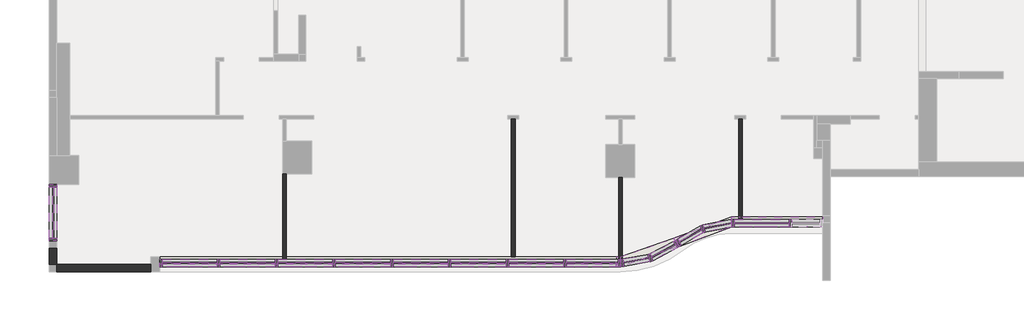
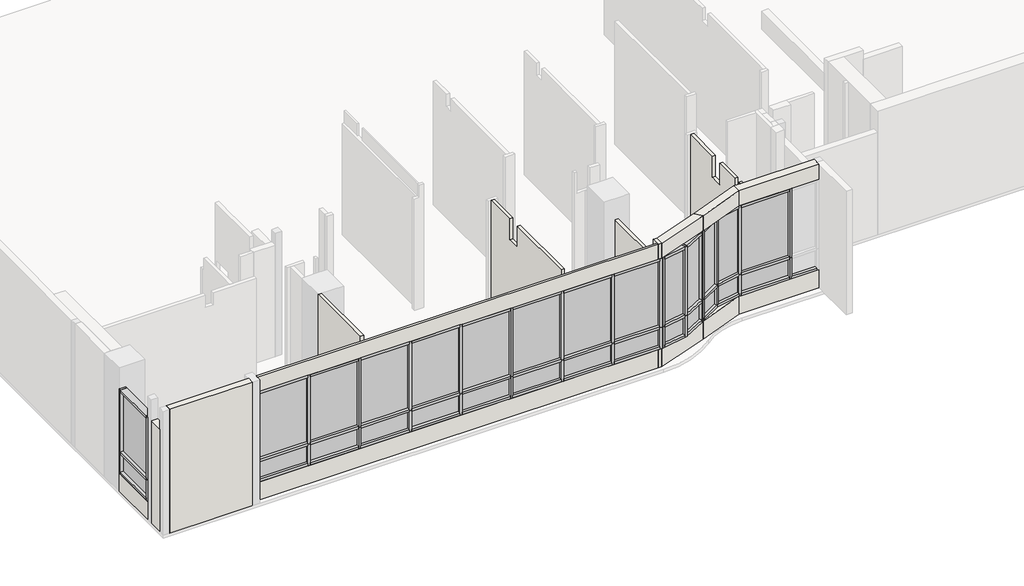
# One storey, part 1 of 5: 79 members, 28 plates, 17 walls.
"""IFC4 building model written with IfcOpenShell, lengths in millimetres."""

from ifc_helpers import new_model, si_unit, point, frame, frame_2d, origin, place, context, project, spatial, polyline, circle_curve, trimmed, segment, composite_curve, outline, extrude, faceted_brep, transform, mapped, element, save
from components import member_70_x_200mm_6b650310, member_70_x_200mm_08fd97f2, member_70_x_200mm_85eb935a, member_70_x_200mm_ae6c61ee, member_70_x_200mm_12a6a6c2, member_80_x_200mm_a37b7d74, member_80_x_200mm_c01ebbc2, member_80_x_200mm_af80708f, member_80_x_200mm_fd89d385, member_80_x_200mm_e8402a9b, member_80_x_200mm_63fe5b45, member_80_x_200mm_e494022e, member_80_x_200mm_537b8d84, member_80_x_200mm_7d515866, member_80_x_200mm_02b9a5ef, member_80_x_200mm_2dc16a67, member_80_x_200mm_d30ed080, member_80_x_200mm_3bc3efc9, member_80_x_200mm_7b820ed9, member_80_x_200mm_c7575e74, member_80_x_200mm_4b454364, member_80_x_200mm_f4b51c8c, member_80_x_200mm_66b8223e, plate_a692ac92, plate_0f107c01, plate_8b333cfc, plate_297323e3, plate_46e1f618, plate_72ebff30, plate_786e0475, plate_0077e03b, plate_0be1c703, plate_d42255f7, plate_9e1ff7f5, plate_61ec28ac, plate_0d231d8c, plate_bfa908b4

model = new_model("IFC4")

# Units and contexts
model_context = context("Model", 3, world=origin())
ifc_project = project(units=[si_unit("LENGTHUNIT", "METRE", prefix="MILLI")], contexts=[model_context])

# Site, building, storey
site = spatial("IfcSite", under=ifc_project)
building = spatial("IfcBuilding", under=site)
storey = spatial("IfcBuildingStorey", under=building, Name="20F(S)", Elevation=-100.0)

# Members
placement = place(None, origin())
member_70_x_200mm_shape = member_70_x_200mm_6b650310(model_context)
element("IfcMember", 1, ObjectType="矩形竖梃 : 70 x 200mm", at=placement, inside=storey, context=model_context, shape_type="MappedRepresentation", body=[
    mapped(member_70_x_200mm_shape, transform((4045.0000012, -2759.8975825, 500.0), x_axis=(1.0, 0.0, 0.0), y_axis=(0.0, -1.0, 0.0), z_axis=(0.0, 0.0, -1.0))),
])
element("IfcMember", 2, ObjectType="矩形竖梃 : 70 x 200mm", at=placement, inside=storey, context=model_context, shape_type="MappedRepresentation", body=[
    mapped(member_70_x_200mm_shape, transform((5635.0000012, -2759.8975825, 500.0), x_axis=(1.0, 0.0, 0.0), y_axis=(0.0, -1.0, 0.0), z_axis=(0.0, 0.0, -1.0))),
])
element("IfcMember", 3, ObjectType="矩形竖梃 : 70 x 200mm", at=placement, inside=storey, context=model_context, shape_type="MappedRepresentation", body=[
    mapped(member_70_x_200mm_shape, transform((7225.0000012, -2759.8975825, 500.0), x_axis=(1.0, 0.0, 0.0), y_axis=(0.0, -1.0, 0.0), z_axis=(0.0, 0.0, -1.0))),
])
element("IfcMember", 4, ObjectType="矩形竖梃 : 70 x 200mm", at=placement, inside=storey, context=model_context, shape_type="MappedRepresentation", body=[
    mapped(member_70_x_200mm_shape, transform((8815.0000012, -2759.8975825, 500.0), x_axis=(1.0, 0.0, 0.0), y_axis=(0.0, -1.0, 0.0), z_axis=(0.0, 0.0, -1.0))),
])
element("IfcMember", 5, ObjectType="矩形竖梃 : 70 x 200mm", at=placement, inside=storey, context=model_context, shape_type="MappedRepresentation", body=[
    mapped(member_70_x_200mm_shape, transform((10405.0000012, -2759.8975825, 500.0), x_axis=(1.0, 0.0, 0.0), y_axis=(0.0, -1.0, 0.0), z_axis=(0.0, 0.0, -1.0))),
])
element("IfcMember", 6, ObjectType="矩形竖梃 : 70 x 200mm", at=placement, inside=storey, context=model_context, shape_type="MappedRepresentation", body=[
    mapped(member_70_x_200mm_shape, transform((11995.0000012, -2759.8975825, 500.0), x_axis=(1.0, 0.0, 0.0), y_axis=(0.0, -1.0, 0.0), z_axis=(0.0, 0.0, -1.0))),
])
element("IfcMember", 7, ObjectType="矩形竖梃 : 70 x 200mm", at=placement, inside=storey, context=model_context, shape_type="MappedRepresentation", body=[
    mapped(member_70_x_200mm_shape, transform((13585.0000012, -2759.8975825, 500.0), x_axis=(1.0, 0.0, 0.0), y_axis=(0.0, -1.0, 0.0), z_axis=(0.0, 0.0, -1.0))),
])
element("IfcMember", 8, ObjectType="矩形竖梃 : 70 x 200mm", at=placement, inside=storey, context=model_context, shape_type="MappedRepresentation", body=[
    mapped(member_70_x_200mm_shape, transform((16658.1799012, -2231.2167325, 500.0), x_axis=(0.7956273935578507, 0.6057863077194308, 0.0), y_axis=(0.6057863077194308, -0.7956273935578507, 0.0), z_axis=(0.0, 0.0, -1.0))),
])
element("IfcMember", 9, ObjectType="矩形竖梃 : 70 x 200mm", at=placement, inside=storey, context=model_context, shape_type="MappedRepresentation", body=[
    mapped(member_70_x_200mm_shape, transform((19792.0604383, -1661.00763, 500.0), x_axis=(1.0, 0.0, 0.0), y_axis=(0.0, -1.0, 0.0), z_axis=(0.0, 0.0, -1.0))),
])
element("IfcMember", 10, ObjectType="矩形竖梃 : 70 x 200mm", at=placement, inside=storey, context=model_context, shape_type="MappedRepresentation", body=[
    mapped(member_70_x_200mm_shape, transform((15932.457914, -2619.3002944, 500.0), x_axis=(0.9455963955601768, 0.32534206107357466, 0.0), y_axis=(0.32534206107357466, -0.9455963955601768, 0.0), z_axis=(0.0, 0.0, -1.0))),
])
element("IfcMember", 11, ObjectType="矩形竖梃 : 70 x 200mm", at=placement, inside=storey, context=model_context, shape_type="MappedRepresentation", body=[
    mapped(member_70_x_200mm_shape, transform((17375.292584, -1816.5245301, 500.0), x_axis=(0.9368192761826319, 0.3498137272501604, 0.0), y_axis=(0.3498137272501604, -0.9368192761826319, 0.0), z_axis=(0.0, 0.0, -1.0))),
])
member_70_x_200mm_2_shape = member_70_x_200mm_08fd97f2(model_context)
element("IfcMember", 12, ObjectType="矩形竖梃 : 70 x 200mm", at=placement, inside=storey, context=model_context, shape_type="MappedRepresentation", body=[
    mapped(member_70_x_200mm_2_shape, transform((4045.0000012, -2759.8975825, 1210.0), x_axis=(1.0, 0.0, 0.0), y_axis=(0.0, -1.0, 0.0), z_axis=(0.0, 0.0, -1.0))),
])
element("IfcMember", 13, ObjectType="矩形竖梃 : 70 x 200mm", at=placement, inside=storey, context=model_context, shape_type="MappedRepresentation", body=[
    mapped(member_70_x_200mm_2_shape, transform((5635.0000012, -2759.8975825, 1210.0), x_axis=(1.0, 0.0, 0.0), y_axis=(0.0, -1.0, 0.0), z_axis=(0.0, 0.0, -1.0))),
])
element("IfcMember", 14, ObjectType="矩形竖梃 : 70 x 200mm", at=placement, inside=storey, context=model_context, shape_type="MappedRepresentation", body=[
    mapped(member_70_x_200mm_2_shape, transform((7225.0000012, -2759.8975825, 1210.0), x_axis=(1.0, 0.0, 0.0), y_axis=(0.0, -1.0, 0.0), z_axis=(0.0, 0.0, -1.0))),
])
element("IfcMember", 15, ObjectType="矩形竖梃 : 70 x 200mm", at=placement, inside=storey, context=model_context, shape_type="MappedRepresentation", body=[
    mapped(member_70_x_200mm_2_shape, transform((8815.0000012, -2759.8975825, 1210.0), x_axis=(1.0, 0.0, 0.0), y_axis=(0.0, -1.0, 0.0), z_axis=(0.0, 0.0, -1.0))),
])
element("IfcMember", 16, ObjectType="矩形竖梃 : 70 x 200mm", at=placement, inside=storey, context=model_context, shape_type="MappedRepresentation", body=[
    mapped(member_70_x_200mm_2_shape, transform((10405.0000012, -2759.8975825, 1210.0), x_axis=(1.0, 0.0, 0.0), y_axis=(0.0, -1.0, 0.0), z_axis=(0.0, 0.0, -1.0))),
])
element("IfcMember", 17, ObjectType="矩形竖梃 : 70 x 200mm", at=placement, inside=storey, context=model_context, shape_type="MappedRepresentation", body=[
    mapped(member_70_x_200mm_2_shape, transform((11995.0000012, -2759.8975825, 1210.0), x_axis=(1.0, 0.0, 0.0), y_axis=(0.0, -1.0, 0.0), z_axis=(0.0, 0.0, -1.0))),
])
element("IfcMember", 18, ObjectType="矩形竖梃 : 70 x 200mm", at=placement, inside=storey, context=model_context, shape_type="MappedRepresentation", body=[
    mapped(member_70_x_200mm_2_shape, transform((13585.0000012, -2759.8975825, 1210.0), x_axis=(1.0, 0.0, 0.0), y_axis=(0.0, -1.0, 0.0), z_axis=(0.0, 0.0, -1.0))),
])
element("IfcMember", 19, ObjectType="矩形竖梃 : 70 x 200mm", at=placement, inside=storey, context=model_context, shape_type="MappedRepresentation", body=[
    mapped(member_70_x_200mm_2_shape, transform((16658.1799012, -2231.2167325, 1210.0), x_axis=(0.7956273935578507, 0.6057863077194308, 0.0), y_axis=(0.6057863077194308, -0.7956273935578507, 0.0), z_axis=(0.0, 0.0, -1.0))),
])
element("IfcMember", 20, ObjectType="矩形竖梃 : 70 x 200mm", at=placement, inside=storey, context=model_context, shape_type="MappedRepresentation", body=[
    mapped(member_70_x_200mm_2_shape, transform((19792.0604383, -1661.00763, 1210.0), x_axis=(1.0, 0.0, 0.0), y_axis=(0.0, -1.0, 0.0), z_axis=(0.0, 0.0, -1.0))),
])
element("IfcMember", 21, ObjectType="矩形竖梃 : 70 x 200mm", at=placement, inside=storey, context=model_context, shape_type="MappedRepresentation", body=[
    mapped(member_70_x_200mm_2_shape, transform((15932.457914, -2619.3002944, 1210.0), x_axis=(0.9455963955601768, 0.32534206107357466, 0.0), y_axis=(0.32534206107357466, -0.9455963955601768, 0.0), z_axis=(0.0, 0.0, -1.0))),
])
element("IfcMember", 22, ObjectType="矩形竖梃 : 70 x 200mm", at=placement, inside=storey, context=model_context, shape_type="MappedRepresentation", body=[
    mapped(member_70_x_200mm_2_shape, transform((17375.292584, -1816.5245301, 1210.0), x_axis=(0.9368192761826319, 0.3498137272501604, 0.0), y_axis=(0.3498137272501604, -0.9368192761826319, 0.0), z_axis=(0.0, 0.0, -1.0))),
])
member_70_x_200mm_3_shape = member_70_x_200mm_85eb935a(model_context)
element("IfcMember", 23, ObjectType="矩形竖梃 : 70 x 200mm", at=placement, inside=storey, context=model_context, shape_type="MappedRepresentation", body=[
    mapped(member_70_x_200mm_3_shape, transform((15121.5857561, -2759.8975825, 500.0), x_axis=(1.0, 0.0, 0.0), y_axis=(0.0, -1.0, 0.0), z_axis=(0.0, 0.0, -1.0))),
])
element("IfcMember", 24, ObjectType="矩形竖梃 : 70 x 200mm", at=placement, inside=storey, context=model_context, shape_type="MappedRepresentation", body=[
    mapped(member_70_x_200mm_3_shape, transform((-509.9999991, -2150.00763, 500.0), x_axis=(0.0, -1.0, 0.0), y_axis=(-1.0, 0.0, 0.0), z_axis=(0.0, 0.0, -1.0))),
])
member_70_x_200mm_4_shape = member_70_x_200mm_ae6c61ee(model_context)
element("IfcMember", 25, ObjectType="矩形竖梃 : 70 x 200mm", at=placement, inside=storey, context=model_context, shape_type="MappedRepresentation", body=[
    mapped(member_70_x_200mm_4_shape, transform((15121.5857561, -2759.8975825, 1210.0), x_axis=(1.0, 0.0, 0.0), y_axis=(0.0, -1.0, 0.0), z_axis=(0.0, 0.0, -1.0))),
])
element("IfcMember", 26, ObjectType="矩形竖梃 : 70 x 200mm", at=placement, inside=storey, context=model_context, shape_type="MappedRepresentation", body=[
    mapped(member_70_x_200mm_4_shape, transform((2420.0000009, -2759.8975825, 3500.0), x_axis=(-1.0, 0.0, 0.0), y_axis=(0.0, -1.0, 0.0), z_axis=(0.0, 0.0, 1.0))),
])
element("IfcMember", 27, ObjectType="矩形竖梃 : 70 x 200mm", at=placement, inside=storey, context=model_context, shape_type="MappedRepresentation", body=[
    mapped(member_70_x_200mm_4_shape, transform((15121.5857561, -2759.8975825, 3500.0), x_axis=(-0.9852985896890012, -0.17084112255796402, 0.0), y_axis=(0.17084112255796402, -0.9852985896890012, 0.0), z_axis=(0.0, 0.0, 1.0))),
])
element("IfcMember", 28, ObjectType="矩形竖梃 : 70 x 200mm", at=placement, inside=storey, context=model_context, shape_type="MappedRepresentation", body=[
    mapped(member_70_x_200mm_4_shape, transform((16675.3718463, -2218.0127637, 3500.0), x_axis=(-0.8674232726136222, -0.4975709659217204, 0.0), y_axis=(0.4975709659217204, -0.8674232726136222, 0.0), z_axis=(0.0, 0.0, 1.0))),
])
element("IfcMember", 29, ObjectType="矩形竖梃 : 70 x 200mm", at=placement, inside=storey, context=model_context, shape_type="MappedRepresentation", body=[
    mapped(member_70_x_200mm_4_shape, transform((18167.060438, -1661.00763, 3500.0), x_axis=(-1.0, 0.0, 0.0), y_axis=(0.0, -1.0, 0.0), z_axis=(0.0, 0.0, 1.0))),
])
element("IfcMember", 30, ObjectType="矩形竖梃 : 70 x 200mm", at=placement, inside=storey, context=model_context, shape_type="MappedRepresentation", body=[
    mapped(member_70_x_200mm_3_shape, transform((2420.0000009, -2759.8975825, 1210.0), x_axis=(-1.0, 0.0, 0.0), y_axis=(0.0, -1.0, 0.0), z_axis=(0.0, 0.0, 1.0))),
])
element("IfcMember", 31, ObjectType="矩形竖梃 : 70 x 200mm", at=placement, inside=storey, context=model_context, shape_type="MappedRepresentation", body=[
    mapped(member_70_x_200mm_3_shape, transform((15121.5857561, -2759.8975825, 1210.0), x_axis=(-0.9852985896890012, -0.170841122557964, 0.0), y_axis=(0.170841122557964, -0.9852985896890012, 0.0), z_axis=(0.0, 0.0, 1.0))),
])
element("IfcMember", 32, ObjectType="矩形竖梃 : 70 x 200mm", at=placement, inside=storey, context=model_context, shape_type="MappedRepresentation", body=[
    mapped(member_70_x_200mm_3_shape, transform((16675.3718463, -2218.0127637, 1210.0), x_axis=(-0.8674232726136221, -0.4975709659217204, 0.0), y_axis=(0.4975709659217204, -0.8674232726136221, 0.0), z_axis=(0.0, 0.0, 1.0))),
])
element("IfcMember", 33, ObjectType="矩形竖梃 : 70 x 200mm", at=placement, inside=storey, context=model_context, shape_type="MappedRepresentation", body=[
    mapped(member_70_x_200mm_3_shape, transform((18167.060438, -1661.00763, 1210.0), x_axis=(-1.0, 0.0, 0.0), y_axis=(0.0, -1.0, 0.0), z_axis=(0.0, 0.0, 1.0))),
])
element("IfcMember", 34, ObjectType="矩形竖梃 : 70 x 200mm", at=placement, inside=storey, context=model_context, shape_type="MappedRepresentation", body=[
    mapped(member_70_x_200mm_3_shape, transform((-509.9999991, -599.9999983, 1210.0), x_axis=(0.0, 1.0, 0.0), y_axis=(-1.0, 0.0, 0.0), z_axis=(0.0, 0.0, 1.0))),
])
member_70_x_200mm_5_shape = member_70_x_200mm_12a6a6c2(model_context)
element("IfcMember", 35, ObjectType="矩形竖梃 : 70 x 200mm", at=placement, inside=storey, context=model_context, shape_type="MappedRepresentation", body=[
    mapped(member_70_x_200mm_5_shape, transform((-509.9999991, -599.9999983, 3300.0), x_axis=(0.0, 1.0, 0.0), y_axis=(-1.0, 0.0, 0.0), z_axis=(0.0, 0.0, 1.0))),
])
element("IfcMember", 36, ObjectType="矩形竖梃 : 70 x 200mm", at=placement, inside=storey, context=model_context, shape_type="MappedRepresentation", body=[
    mapped(member_70_x_200mm_5_shape, transform((-509.9999991, -2150.00763, 1210.0), x_axis=(0.0, -1.0, 0.0), y_axis=(-1.0, 0.0, 0.0), z_axis=(0.0, 0.0, -1.0))),
])
member_80_x_200mm_shape = member_80_x_200mm_a37b7d74(model_context)
element("IfcMember", 37, ObjectType="矩形竖梃 : 80 x 200mm", at=placement, inside=storey, context=model_context, shape_type="MappedRepresentation", body=[
    mapped(member_80_x_200mm_shape, transform((15051.5857561, -2759.8975825, 3500.0), x_axis=(0.0, 0.0, 1.0), y_axis=(0.0, -1.0, 0.0), z_axis=(1.0, 0.0, 0.0))),
])
member_80_x_200mm_2_shape = member_80_x_200mm_c01ebbc2(model_context)
element("IfcMember", 38, ObjectType="矩形竖梃 : 80 x 200mm", at=placement, inside=storey, context=model_context, shape_type="MappedRepresentation", body=[
    mapped(member_80_x_200mm_2_shape, transform((4010.0000012, -2759.8975825, 3500.0), x_axis=(0.0, 0.0, 1.0), y_axis=(0.0, -1.0, 0.0), z_axis=(1.0, 0.0, 0.0))),
])
element("IfcMember", 39, ObjectType="矩形竖梃 : 80 x 200mm", at=placement, inside=storey, context=model_context, shape_type="MappedRepresentation", body=[
    mapped(member_80_x_200mm_2_shape, transform((5600.0000012, -2759.8975825, 3500.0), x_axis=(0.0, 0.0, 1.0), y_axis=(0.0, -1.0, 0.0), z_axis=(1.0, 0.0, 0.0))),
])
element("IfcMember", 40, ObjectType="矩形竖梃 : 80 x 200mm", at=placement, inside=storey, context=model_context, shape_type="MappedRepresentation", body=[
    mapped(member_80_x_200mm_2_shape, transform((7190.0000012, -2759.8975825, 3500.0), x_axis=(0.0, 0.0, 1.0), y_axis=(0.0, -1.0, 0.0), z_axis=(1.0, 0.0, 0.0))),
])
element("IfcMember", 41, ObjectType="矩形竖梃 : 80 x 200mm", at=placement, inside=storey, context=model_context, shape_type="MappedRepresentation", body=[
    mapped(member_80_x_200mm_2_shape, transform((8780.0000012, -2759.8975825, 3500.0), x_axis=(0.0, 0.0, 1.0), y_axis=(0.0, -1.0, 0.0), z_axis=(1.0, 0.0, 0.0))),
])
element("IfcMember", 42, ObjectType="矩形竖梃 : 80 x 200mm", at=placement, inside=storey, context=model_context, shape_type="MappedRepresentation", body=[
    mapped(member_80_x_200mm_2_shape, transform((10370.0000012, -2759.8975825, 3500.0), x_axis=(0.0, 0.0, 1.0), y_axis=(0.0, -1.0, 0.0), z_axis=(1.0, 0.0, 0.0))),
])
element("IfcMember", 43, ObjectType="矩形竖梃 : 80 x 200mm", at=placement, inside=storey, context=model_context, shape_type="MappedRepresentation", body=[
    mapped(member_80_x_200mm_2_shape, transform((11960.0000012, -2759.8975825, 3500.0), x_axis=(0.0, 0.0, 1.0), y_axis=(0.0, -1.0, 0.0), z_axis=(1.0, 0.0, 0.0))),
])
element("IfcMember", 44, ObjectType="矩形竖梃 : 80 x 200mm", at=placement, inside=storey, context=model_context, shape_type="MappedRepresentation", body=[
    mapped(member_80_x_200mm_2_shape, transform((13550.0000012, -2759.8975825, 3500.0), x_axis=(0.0, 0.0, 1.0), y_axis=(0.0, -1.0, 0.0), z_axis=(1.0, 0.0, 0.0))),
])
element("IfcMember", 45, ObjectType="矩形竖梃 : 80 x 200mm", at=placement, inside=storey, context=model_context, shape_type="MappedRepresentation", body=[
    mapped(member_80_x_200mm_2_shape, transform((19757.0604383, -1661.00763, 3500.0), x_axis=(0.0, 0.0, 1.0), y_axis=(0.0, -1.0, 0.0), z_axis=(1.0, 0.0, 0.0))),
])
element("IfcMember", 46, ObjectType="矩形竖梃 : 80 x 200mm", at=placement, inside=storey, context=model_context, shape_type="MappedRepresentation", body=[
    mapped(member_80_x_200mm_2_shape, transform((2490.0000009, -2759.8975825, 500.0), x_axis=(0.0, 0.0, -1.0), y_axis=(0.0, -1.0, 0.0), z_axis=(-1.0, 0.0, 0.0))),
])
element("IfcMember", 47, ObjectType="矩形竖梃 : 80 x 200mm", at=placement, inside=storey, context=model_context, shape_type="MappedRepresentation", body=[
    mapped(member_80_x_200mm_2_shape, transform((4080.0000012, -2759.8975825, 500.0), x_axis=(0.0, 0.0, -1.0), y_axis=(0.0, -1.0, 0.0), z_axis=(-1.0, 0.0, 0.0))),
])
element("IfcMember", 48, ObjectType="矩形竖梃 : 80 x 200mm", at=placement, inside=storey, context=model_context, shape_type="MappedRepresentation", body=[
    mapped(member_80_x_200mm_2_shape, transform((5670.0000012, -2759.8975825, 500.0), x_axis=(0.0, 0.0, -1.0), y_axis=(0.0, -1.0, 0.0), z_axis=(-1.0, 0.0, 0.0))),
])
element("IfcMember", 49, ObjectType="矩形竖梃 : 80 x 200mm", at=placement, inside=storey, context=model_context, shape_type="MappedRepresentation", body=[
    mapped(member_80_x_200mm_2_shape, transform((7260.0000012, -2759.8975825, 500.0), x_axis=(0.0, 0.0, -1.0), y_axis=(0.0, -1.0, 0.0), z_axis=(-1.0, 0.0, 0.0))),
])
element("IfcMember", 50, ObjectType="矩形竖梃 : 80 x 200mm", at=placement, inside=storey, context=model_context, shape_type="MappedRepresentation", body=[
    mapped(member_80_x_200mm_2_shape, transform((8850.0000012, -2759.8975825, 500.0), x_axis=(0.0, 0.0, -1.0), y_axis=(0.0, -1.0, 0.0), z_axis=(-1.0, 0.0, 0.0))),
])
element("IfcMember", 51, ObjectType="矩形竖梃 : 80 x 200mm", at=placement, inside=storey, context=model_context, shape_type="MappedRepresentation", body=[
    mapped(member_80_x_200mm_2_shape, transform((10440.0000012, -2759.8975825, 500.0), x_axis=(0.0, 0.0, -1.0), y_axis=(0.0, -1.0, 0.0), z_axis=(-1.0, 0.0, 0.0))),
])
element("IfcMember", 52, ObjectType="矩形竖梃 : 80 x 200mm", at=placement, inside=storey, context=model_context, shape_type="MappedRepresentation", body=[
    mapped(member_80_x_200mm_2_shape, transform((12030.0000012, -2759.8975825, 500.0), x_axis=(0.0, 0.0, -1.0), y_axis=(0.0, -1.0, 0.0), z_axis=(-1.0, 0.0, 0.0))),
])
element("IfcMember", 53, ObjectType="矩形竖梃 : 80 x 200mm", at=placement, inside=storey, context=model_context, shape_type="MappedRepresentation", body=[
    mapped(member_80_x_200mm_2_shape, transform((18237.060438, -1661.00763, 500.0), x_axis=(0.0, 0.0, -1.0), y_axis=(0.0, -1.0, 0.0), z_axis=(-1.0, 0.0, 0.0))),
])
element("IfcMember", 54, ObjectType="矩形竖梃 : 80 x 200mm", at=placement, inside=storey, context=model_context, shape_type="MappedRepresentation", body=[
    mapped(member_80_x_200mm_shape, transform((13620.0000012, -2759.8975825, 500.0), x_axis=(0.0, 0.0, -1.0), y_axis=(0.0, -1.0, 0.0), z_axis=(-1.0, 0.0, 0.0))),
])
member_80_x_200mm_3_shape = member_80_x_200mm_af80708f(model_context)
element("IfcMember", 55, ObjectType="矩形竖梃 : 80 x 200mm", at=placement, inside=storey, context=model_context, shape_type="MappedRepresentation", body=[
    mapped(member_80_x_200mm_3_shape, transform((4010.0000012, -2759.8975825, 1210.0), x_axis=(0.0, 0.0, 1.0), y_axis=(0.0, -1.0, 0.0), z_axis=(1.0, 0.0, 0.0))),
])
element("IfcMember", 56, ObjectType="矩形竖梃 : 80 x 200mm", at=placement, inside=storey, context=model_context, shape_type="MappedRepresentation", body=[
    mapped(member_80_x_200mm_3_shape, transform((5600.0000012, -2759.8975825, 1210.0), x_axis=(0.0, 0.0, 1.0), y_axis=(0.0, -1.0, 0.0), z_axis=(1.0, 0.0, 0.0))),
])
element("IfcMember", 57, ObjectType="矩形竖梃 : 80 x 200mm", at=placement, inside=storey, context=model_context, shape_type="MappedRepresentation", body=[
    mapped(member_80_x_200mm_3_shape, transform((7190.0000012, -2759.8975825, 1210.0), x_axis=(0.0, 0.0, 1.0), y_axis=(0.0, -1.0, 0.0), z_axis=(1.0, 0.0, 0.0))),
])
element("IfcMember", 58, ObjectType="矩形竖梃 : 80 x 200mm", at=placement, inside=storey, context=model_context, shape_type="MappedRepresentation", body=[
    mapped(member_80_x_200mm_3_shape, transform((8780.0000012, -2759.8975825, 1210.0), x_axis=(0.0, 0.0, 1.0), y_axis=(0.0, -1.0, 0.0), z_axis=(1.0, 0.0, 0.0))),
])
element("IfcMember", 59, ObjectType="矩形竖梃 : 80 x 200mm", at=placement, inside=storey, context=model_context, shape_type="MappedRepresentation", body=[
    mapped(member_80_x_200mm_3_shape, transform((10370.0000012, -2759.8975825, 1210.0), x_axis=(0.0, 0.0, 1.0), y_axis=(0.0, -1.0, 0.0), z_axis=(1.0, 0.0, 0.0))),
])
element("IfcMember", 60, ObjectType="矩形竖梃 : 80 x 200mm", at=placement, inside=storey, context=model_context, shape_type="MappedRepresentation", body=[
    mapped(member_80_x_200mm_3_shape, transform((11960.0000012, -2759.8975825, 1210.0), x_axis=(0.0, 0.0, 1.0), y_axis=(0.0, -1.0, 0.0), z_axis=(1.0, 0.0, 0.0))),
])
element("IfcMember", 61, ObjectType="矩形竖梃 : 80 x 200mm", at=placement, inside=storey, context=model_context, shape_type="MappedRepresentation", body=[
    mapped(member_80_x_200mm_3_shape, transform((13550.0000012, -2759.8975825, 1210.0), x_axis=(0.0, 0.0, 1.0), y_axis=(0.0, -1.0, 0.0), z_axis=(1.0, 0.0, 0.0))),
])
element("IfcMember", 62, ObjectType="矩形竖梃 : 80 x 200mm", at=placement, inside=storey, context=model_context, shape_type="MappedRepresentation", body=[
    mapped(member_80_x_200mm_3_shape, transform((19757.0604383, -1661.00763, 1210.0), x_axis=(0.0, 0.0, 1.0), y_axis=(0.0, -1.0, 0.0), z_axis=(1.0, 0.0, 0.0))),
])
member_80_x_200mm_4_shape = member_80_x_200mm_fd89d385(model_context)
element("IfcMember", 63, ObjectType="矩形竖梃 : 80 x 200mm", at=placement, inside=storey, context=model_context, shape_type="MappedRepresentation", body=[
    mapped(member_80_x_200mm_4_shape, transform((15051.5857561, -2759.8975825, 1210.0), x_axis=(0.0, 0.0, 1.0), y_axis=(0.0, -1.0, 0.0), z_axis=(1.0, 0.0, 0.0))),
])
member_80_x_200mm_5_shape = member_80_x_200mm_e8402a9b(model_context)
element("IfcMember", 64, ObjectType="矩形竖梃 : 80 x 200mm", at=placement, inside=storey, context=model_context, shape_type="MappedRepresentation", body=[
    mapped(member_80_x_200mm_5_shape, transform((19827.0604383, -1661.00763, 500.0), x_axis=(0.0, 0.0, -1.0), y_axis=(0.0, -1.0, 0.0), z_axis=(-1.0, 0.0, 0.0))),
])
member_80_x_200mm_6_shape = member_80_x_200mm_63fe5b45(model_context)
element("IfcMember", 65, ObjectType="矩形竖梃 : 80 x 200mm", at=placement, inside=storey, context=model_context, shape_type="MappedRepresentation", body=[
    mapped(member_80_x_200mm_6_shape, transform((16627.3157884, -2247.7214754, 3500.0), x_axis=(0.0, 0.0, 1.0), y_axis=(0.4715640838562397, -0.8818317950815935, 0.0), z_axis=(0.8818317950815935, 0.4715640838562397, 0.0))),
])
member_80_x_200mm_7_shape = member_80_x_200mm_e494022e(model_context)
element("IfcMember", 66, ObjectType="矩形竖梃 : 80 x 200mm", at=placement, inside=storey, context=model_context, shape_type="MappedRepresentation", body=[
    mapped(member_80_x_200mm_7_shape, transform((15190.5566574, -2747.938704, 500.0), x_axis=(0.0, 0.0, -1.0), y_axis=(0.17084112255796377, -0.9852985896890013, 0.0), z_axis=(-0.9852985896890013, -0.17084112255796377, 0.0))),
])
member_80_x_200mm_8_shape = member_80_x_200mm_537b8d84(model_context)
element("IfcMember", 67, ObjectType="矩形竖梃 : 80 x 200mm", at=placement, inside=storey, context=model_context, shape_type="MappedRepresentation", body=[
    mapped(member_80_x_200mm_8_shape, transform((15897.9724634, -2625.2797337, 1210.0), x_axis=(0.0, 0.0, 1.0), y_axis=(0.17084112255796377, -0.9852985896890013, 0.0), z_axis=(0.9852985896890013, 0.17084112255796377, 0.0))),
])
member_80_x_200mm_9_shape = member_80_x_200mm_7d515866(model_context)
element("IfcMember", 68, ObjectType="矩形竖梃 : 80 x 200mm", at=placement, inside=storey, context=model_context, shape_type="MappedRepresentation", body=[
    mapped(member_80_x_200mm_9_shape, transform((15897.9724634, -2625.2797337, 3500.0), x_axis=(0.0, 0.0, 1.0), y_axis=(0.17084112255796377, -0.9852985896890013, 0.0), z_axis=(0.9852985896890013, 0.17084112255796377, 0.0))),
])
element("IfcMember", 69, ObjectType="矩形竖梃 : 80 x 200mm", at=placement, inside=storey, context=model_context, shape_type="MappedRepresentation", body=[
    mapped(member_80_x_200mm_6_shape, transform((15963.3220268, -2602.7955515, 500.0), x_axis=(0.0, 0.0, -1.0), y_axis=(0.4715640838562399, -0.8818317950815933, 0.0), z_axis=(-0.8818317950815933, -0.4715640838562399, 0.0))),
])
member_80_x_200mm_10_shape = member_80_x_200mm_02b9a5ef(model_context)
element("IfcMember", 70, ObjectType="矩形竖梃 : 80 x 200mm", at=placement, inside=storey, context=model_context, shape_type="MappedRepresentation", body=[
    mapped(member_80_x_200mm_10_shape, transform((16627.3157884, -2247.7214754, 1210.0), x_axis=(0.0, 0.0, 1.0), y_axis=(0.47156408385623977, -0.8818317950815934, 0.0), z_axis=(0.8818317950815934, 0.47156408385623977, 0.0))),
])
member_80_x_200mm_11_shape = member_80_x_200mm_2dc16a67(model_context)
element("IfcMember", 71, ObjectType="矩形竖梃 : 80 x 200mm", at=placement, inside=storey, context=model_context, shape_type="MappedRepresentation", body=[
    mapped(member_80_x_200mm_11_shape, transform((16736.0914753, -2183.1827961, 500.0), x_axis=(0.0, 0.0, -1.0), y_axis=(0.4975709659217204, -0.8674232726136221, 0.0), z_axis=(-0.8674232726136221, -0.4975709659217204, 0.0))),
])
member_80_x_200mm_12_shape = member_80_x_200mm_d30ed080(model_context)
element("IfcMember", 72, ObjectType="矩形竖梃 : 80 x 200mm", at=placement, inside=storey, context=model_context, shape_type="MappedRepresentation", body=[
    mapped(member_80_x_200mm_12_shape, transform((17344.9327694, -1833.9395139, 1210.0), x_axis=(0.0, 0.0, 1.0), y_axis=(0.4975709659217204, -0.8674232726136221, 0.0), z_axis=(0.8674232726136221, 0.4975709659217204, 0.0))),
])
member_80_x_200mm_13_shape = member_80_x_200mm_3bc3efc9(model_context)
element("IfcMember", 73, ObjectType="矩形竖梃 : 80 x 200mm", at=placement, inside=storey, context=model_context, shape_type="MappedRepresentation", body=[
    mapped(member_80_x_200mm_13_shape, transform((17344.9327694, -1833.9395139, 3500.0), x_axis=(0.0, 0.0, 1.0), y_axis=(0.4975709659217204, -0.8674232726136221, 0.0), z_axis=(0.8674232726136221, 0.4975709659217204, 0.0))),
])
member_80_x_200mm_14_shape = member_80_x_200mm_7b820ed9(model_context)
element("IfcMember", 74, ObjectType="矩形竖梃 : 80 x 200mm", at=placement, inside=storey, context=model_context, shape_type="MappedRepresentation", body=[
    mapped(member_80_x_200mm_14_shape, transform((18167.060438, -1661.00763, 3500.0), x_axis=(0.0, 0.0, 1.0), y_axis=(0.1927346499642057, -0.981250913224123, 0.0), z_axis=(0.9812509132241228, 0.19273464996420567, 0.0))),
])
member_80_x_200mm_15_shape = member_80_x_200mm_c7575e74(model_context)
element("IfcMember", 75, ObjectType="矩形竖梃 : 80 x 200mm", at=placement, inside=storey, context=model_context, shape_type="MappedRepresentation", body=[
    mapped(member_80_x_200mm_15_shape, transform((17409.6363659, -1809.7788173, 500.0), x_axis=(0.0, 0.0, -1.0), y_axis=(0.1927346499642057, -0.981250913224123, 0.0), z_axis=(-0.9812509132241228, -0.19273464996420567, 0.0))),
])
member_80_x_200mm_16_shape = member_80_x_200mm_4b454364(model_context)
element("IfcMember", 76, ObjectType="矩形竖梃 : 80 x 200mm", at=placement, inside=storey, context=model_context, shape_type="MappedRepresentation", body=[
    mapped(member_80_x_200mm_16_shape, transform((18167.060438, -1661.00763, 1210.0), x_axis=(0.0, 0.0, 1.0), y_axis=(0.1927346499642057, -0.981250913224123, 0.0), z_axis=(0.9812509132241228, 0.19273464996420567, 0.0))),
])
member_80_x_200mm_17_shape = member_80_x_200mm_f4b51c8c(model_context)
element("IfcMember", 77, ObjectType="矩形竖梃 : 80 x 200mm", at=placement, inside=storey, context=model_context, shape_type="MappedRepresentation", body=[
    mapped(member_80_x_200mm_17_shape, transform((-509.9999991, -2080.00763, 3300.0), x_axis=(0.0, 0.0, 1.0), y_axis=(-1.0, 0.0, 0.0), z_axis=(0.0, -1.0, 0.0))),
])
element("IfcMember", 78, ObjectType="矩形竖梃 : 80 x 200mm", at=placement, inside=storey, context=model_context, shape_type="MappedRepresentation", body=[
    mapped(member_80_x_200mm_17_shape, transform((-509.9999991, -669.9999983, 500.0), x_axis=(0.0, 0.0, -1.0), y_axis=(-1.0, 0.0, 0.0), z_axis=(0.0, 1.0, 0.0))),
])
member_80_x_200mm_18_shape = member_80_x_200mm_66b8223e(model_context)
element("IfcMember", 79, ObjectType="矩形竖梃 : 80 x 200mm", at=placement, inside=storey, context=model_context, shape_type="MappedRepresentation", body=[
    mapped(member_80_x_200mm_18_shape, transform((-509.9999991, -2080.00763, 1210.0), x_axis=(0.0, 0.0, 1.0), y_axis=(-1.0, 0.0, 0.0), z_axis=(0.0, -1.0, 0.0))),
])

# Plates
plate_shape = plate_a692ac92(model_context)
element("IfcPlate", 80, ObjectType="系统嵌板 : 玻璃", at=placement, inside=storey, context=model_context, shape_type="MappedRepresentation", body=[
    mapped(plate_shape, transform((3250.0000011, -2759.8975825, 580.0), x_axis=(1.0, 0.0, 0.0), y_axis=(0.0, 1.0, 0.0), z_axis=(0.0, 0.0, 1.0))),
])
element("IfcPlate", 81, ObjectType="系统嵌板 : 玻璃", at=placement, inside=storey, context=model_context, shape_type="MappedRepresentation", body=[
    mapped(plate_shape, transform((18997.0604381, -1661.00763, 580.0), x_axis=(1.0, 0.0, 0.0), y_axis=(0.0, 1.0, 0.0), z_axis=(0.0, 0.0, 1.0))),
])
element("IfcPlate", 82, ObjectType="系统嵌板 : 玻璃", at=placement, inside=storey, context=model_context, shape_type="MappedRepresentation", body=[
    mapped(plate_shape, transform((4840.0000012, -2759.8975825, 580.0), x_axis=(1.0, 0.0, 0.0), y_axis=(0.0, 1.0, 0.0), z_axis=(0.0, 0.0, 1.0))),
])
element("IfcPlate", 83, ObjectType="系统嵌板 : 玻璃", at=placement, inside=storey, context=model_context, shape_type="MappedRepresentation", body=[
    mapped(plate_shape, transform((6430.0000012, -2759.8975825, 580.0), x_axis=(1.0, 0.0, 0.0), y_axis=(0.0, 1.0, 0.0), z_axis=(0.0, 0.0, 1.0))),
])
element("IfcPlate", 84, ObjectType="系统嵌板 : 玻璃", at=placement, inside=storey, context=model_context, shape_type="MappedRepresentation", body=[
    mapped(plate_shape, transform((8020.0000012, -2759.8975825, 580.0), x_axis=(1.0, 0.0, 0.0), y_axis=(0.0, 1.0, 0.0), z_axis=(0.0, 0.0, 1.0))),
])
element("IfcPlate", 85, ObjectType="系统嵌板 : 玻璃", at=placement, inside=storey, context=model_context, shape_type="MappedRepresentation", body=[
    mapped(plate_shape, transform((9610.0000012, -2759.8975825, 580.0), x_axis=(1.0, 0.0, 0.0), y_axis=(0.0, 1.0, 0.0), z_axis=(0.0, 0.0, 1.0))),
])
element("IfcPlate", 86, ObjectType="系统嵌板 : 玻璃", at=placement, inside=storey, context=model_context, shape_type="MappedRepresentation", body=[
    mapped(plate_shape, transform((11200.0000012, -2759.8975825, 580.0), x_axis=(1.0, 0.0, 0.0), y_axis=(0.0, 1.0, 0.0), z_axis=(0.0, 0.0, 1.0))),
])
element("IfcPlate", 87, ObjectType="系统嵌板 : 玻璃", at=placement, inside=storey, context=model_context, shape_type="MappedRepresentation", body=[
    mapped(plate_shape, transform((12790.0000012, -2759.8975825, 580.0), x_axis=(1.0, 0.0, 0.0), y_axis=(0.0, 1.0, 0.0), z_axis=(0.0, 0.0, 1.0))),
])
plate_2_shape = plate_0f107c01(model_context)
element("IfcPlate", 88, ObjectType="系统嵌板 : 玻璃", at=placement, inside=storey, context=model_context, shape_type="MappedRepresentation", body=[
    mapped(plate_2_shape, transform((14335.7928787, -2759.8975825, 580.0), x_axis=(1.0, 0.0, 0.0), y_axis=(0.0, 1.0, 0.0), z_axis=(0.0, 0.0, 1.0))),
])
plate_3_shape = plate_8b333cfc(model_context)
element("IfcPlate", 89, ObjectType="系统嵌板 : 玻璃", at=placement, inside=storey, context=model_context, shape_type="MappedRepresentation", body=[
    mapped(plate_3_shape, transform((3250.0000011, -2759.8975825, 1250.0), x_axis=(1.0, 0.0, 0.0), y_axis=(0.0, 1.0, 0.0), z_axis=(0.0, 0.0, 1.0))),
])
element("IfcPlate", 90, ObjectType="系统嵌板 : 玻璃", at=placement, inside=storey, context=model_context, shape_type="MappedRepresentation", body=[
    mapped(plate_3_shape, transform((4840.0000012, -2759.8975825, 1250.0), x_axis=(1.0, 0.0, 0.0), y_axis=(0.0, 1.0, 0.0), z_axis=(0.0, 0.0, 1.0))),
])
element("IfcPlate", 91, ObjectType="系统嵌板 : 玻璃", at=placement, inside=storey, context=model_context, shape_type="MappedRepresentation", body=[
    mapped(plate_3_shape, transform((6430.0000012, -2759.8975825, 1250.0), x_axis=(1.0, 0.0, 0.0), y_axis=(0.0, 1.0, 0.0), z_axis=(0.0, 0.0, 1.0))),
])
element("IfcPlate", 92, ObjectType="系统嵌板 : 玻璃", at=placement, inside=storey, context=model_context, shape_type="MappedRepresentation", body=[
    mapped(plate_3_shape, transform((8020.0000012, -2759.8975825, 1250.0), x_axis=(1.0, 0.0, 0.0), y_axis=(0.0, 1.0, 0.0), z_axis=(0.0, 0.0, 1.0))),
])
element("IfcPlate", 93, ObjectType="系统嵌板 : 玻璃", at=placement, inside=storey, context=model_context, shape_type="MappedRepresentation", body=[
    mapped(plate_3_shape, transform((9610.0000012, -2759.8975825, 1250.0), x_axis=(1.0, 0.0, 0.0), y_axis=(0.0, 1.0, 0.0), z_axis=(0.0, 0.0, 1.0))),
])
element("IfcPlate", 94, ObjectType="系统嵌板 : 玻璃", at=placement, inside=storey, context=model_context, shape_type="MappedRepresentation", body=[
    mapped(plate_3_shape, transform((11200.0000012, -2759.8975825, 1250.0), x_axis=(1.0, 0.0, 0.0), y_axis=(0.0, 1.0, 0.0), z_axis=(0.0, 0.0, 1.0))),
])
element("IfcPlate", 95, ObjectType="系统嵌板 : 玻璃", at=placement, inside=storey, context=model_context, shape_type="MappedRepresentation", body=[
    mapped(plate_3_shape, transform((12790.0000012, -2759.8975825, 1250.0), x_axis=(1.0, 0.0, 0.0), y_axis=(0.0, 1.0, 0.0), z_axis=(0.0, 0.0, 1.0))),
])
element("IfcPlate", 96, ObjectType="系统嵌板 : 玻璃", at=placement, inside=storey, context=model_context, shape_type="MappedRepresentation", body=[
    mapped(plate_3_shape, transform((18997.0604381, -1661.00763, 1250.0), x_axis=(1.0, 0.0, 0.0), y_axis=(0.0, 1.0, 0.0), z_axis=(0.0, 0.0, 1.0))),
])
plate_4_shape = plate_297323e3(model_context)
element("IfcPlate", 97, ObjectType="系统嵌板 : 玻璃", at=placement, inside=storey, context=model_context, shape_type="MappedRepresentation", body=[
    mapped(plate_4_shape, transform((14335.7928787, -2759.8975825, 1250.0), x_axis=(1.0, 0.0, 0.0), y_axis=(0.0, 1.0, 0.0), z_axis=(0.0, 0.0, 1.0))),
])
plate_5_shape = plate_46e1f618(model_context)
element("IfcPlate", 98, ObjectType="系统嵌板 : 玻璃", at=placement, inside=storey, context=model_context, shape_type="MappedRepresentation", body=[
    mapped(plate_5_shape, transform((16295.3189076, -2425.2585134, 580.0), x_axis=(0.8818317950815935, 0.47156408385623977, 0.0), y_axis=(-0.47156408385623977, 0.8818317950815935, 0.0), z_axis=(0.0, 0.0, 1.0))),
])
plate_6_shape = plate_72ebff30(model_context)
element("IfcPlate", 99, ObjectType="系统嵌板 : 玻璃", at=placement, inside=storey, context=model_context, shape_type="MappedRepresentation", body=[
    mapped(plate_6_shape, transform((15544.2645604, -2686.6092188, 580.0), x_axis=(0.9852985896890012, 0.170841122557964, 0.0), y_axis=(-0.170841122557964, 0.9852985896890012, 0.0), z_axis=(0.0, 0.0, 1.0))),
])
plate_7_shape = plate_786e0475(model_context)
element("IfcPlate", 100, ObjectType="系统嵌板 : 玻璃", at=placement, inside=storey, context=model_context, shape_type="MappedRepresentation", body=[
    mapped(plate_7_shape, transform((15544.2645604, -2686.6092188, 1250.0), x_axis=(0.9852985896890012, 0.17084112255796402, 0.0), y_axis=(-0.17084112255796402, 0.9852985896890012, 0.0), z_axis=(0.0, 0.0, 1.0))),
])
plate_8_shape = plate_0077e03b(model_context)
element("IfcPlate", 101, ObjectType="系统嵌板 : 玻璃", at=placement, inside=storey, context=model_context, shape_type="MappedRepresentation", body=[
    mapped(plate_8_shape, transform((16295.3189076, -2425.2585134, 1250.0), x_axis=(0.8818317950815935, 0.4715640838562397, 0.0), y_axis=(-0.4715640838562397, 0.8818317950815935, 0.0), z_axis=(0.0, 0.0, 1.0))),
])
plate_9_shape = plate_0be1c703(model_context)
element("IfcPlate", 102, ObjectType="系统嵌板 : 玻璃", at=placement, inside=storey, context=model_context, shape_type="MappedRepresentation", body=[
    mapped(plate_9_shape, transform((17040.5121224, -2008.561155, 580.0), x_axis=(0.8674232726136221, 0.4975709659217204, 0.0), y_axis=(-0.4975709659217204, 0.8674232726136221, 0.0), z_axis=(0.0, 0.0, 1.0))),
])
plate_10_shape = plate_d42255f7(model_context)
element("IfcPlate", 103, ObjectType="系统嵌板 : 玻璃", at=placement, inside=storey, context=model_context, shape_type="MappedRepresentation", body=[
    mapped(plate_10_shape, transform((17040.5121224, -2008.561155, 1250.0), x_axis=(0.8674232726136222, 0.4975709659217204, 0.0), y_axis=(-0.4975709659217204, 0.8674232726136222, 0.0), z_axis=(0.0, 0.0, 1.0))),
])
plate_11_shape = plate_9e1ff7f5(model_context)
element("IfcPlate", 104, ObjectType="系统嵌板 : 玻璃", at=placement, inside=storey, context=model_context, shape_type="MappedRepresentation", body=[
    mapped(plate_11_shape, transform((17788.348402, -1735.3932237, 1250.0), x_axis=(0.981250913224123, 0.1927346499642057, 0.0), y_axis=(-0.1927346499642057, 0.981250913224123, 0.0), z_axis=(0.0, 0.0, 1.0))),
])
plate_12_shape = plate_61ec28ac(model_context)
element("IfcPlate", 105, ObjectType="系统嵌板 : 玻璃", at=placement, inside=storey, context=model_context, shape_type="MappedRepresentation", body=[
    mapped(plate_12_shape, transform((17788.348402, -1735.3932237, 580.0), x_axis=(0.981250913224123, 0.19273464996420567, 0.0), y_axis=(-0.19273464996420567, 0.981250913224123, 0.0), z_axis=(0.0, 0.0, 1.0))),
])
plate_13_shape = plate_0d231d8c(model_context)
element("IfcPlate", 106, ObjectType="系统嵌板 : 玻璃", at=placement, inside=storey, context=model_context, shape_type="MappedRepresentation", body=[
    mapped(plate_13_shape, transform((-509.9999991, -1375.0038142, 580.0), x_axis=(0.0, -1.0, 0.0), y_axis=(1.0, 0.0, 0.0), z_axis=(0.0, 0.0, 1.0))),
])
plate_14_shape = plate_bfa908b4(model_context)
element("IfcPlate", 107, ObjectType="系统嵌板 : 玻璃", at=placement, inside=storey, context=model_context, shape_type="MappedRepresentation", body=[
    mapped(plate_14_shape, transform((-509.9999991, -1375.0038142, 1250.0), x_axis=(0.0, -1.0, 0.0), y_axis=(1.0, 0.0, 0.0), z_axis=(0.0, 0.0, 1.0))),
])

# Walls
element("IfcWall", 108, ObjectType="非承重墙-200", at=placement, inside=storey, context=model_context, shape_type="SweptSolid", body=[
    extrude(outline(polyline([(-609.9999992, -2800.0152735), (-609.9999992, -2350.00763), (-409.9999992, -2350.00763), (-409.9999992, -2800.0152735), (-609.9999992, -2800.0152735)])), frame((0.0, 0.0, -100.0), z_axis=(0.0, 0.0, 1.0), x_axis=(1.0, 0.0, 0.0)), (0.0, 0.0, 1.0), 3400.0),
])
element("IfcWall", 109, ObjectType="非承重墙-200", at=placement, inside=storey, context=model_context, shape_type="SweptSolid", body=[
    extrude(outline(polyline([(2180.0000009, -3000.0152735), (-409.9999991, -3000.0152735), (-409.9999991, -2800.0152735), (2180.0000009, -2800.0152735), (2180.0000009, -3000.0152735)])), frame((0.0, 0.0, -100.0), z_axis=(0.0, 0.0, 1.0), x_axis=(1.0, 0.0, 0.0)), (0.0, 0.0, 1.0), 4100.0),
])
element("IfcWall", 110, ObjectType="非承重墙-200", at=placement, inside=storey, context=model_context, shape_type="SweptSolid", body=[
    extrude(outline(polyline([(-409.9999991, -599.9999983), (-409.9999991, -2150.00763), (-609.9999991, -2150.00763), (-609.9999991, -599.9999983), (-409.9999991, -599.9999983)])), frame((0.0, 0.0, -100.0), z_axis=(0.0, 0.0, 1.0), x_axis=(1.0, 0.0, 0.0)), (0.0, 0.0, 1.0), 600.0),
])
element("IfcWall", 111, ObjectType="非承重墙-270", at=placement, inside=storey, context=model_context, shape_type="SweptSolid", body=[
    extrude(outline(polyline([(15000.0, -2859.8975825), (2420.0000009, -2859.8975825), (2420.0000009, -2589.8975825), (15000.0, -2589.8975825), (15000.0, -2859.8975825)])), frame((0.0, 0.0, -100.0), z_axis=(0.0, 0.0, 1.0), x_axis=(1.0, 0.0, 0.0)), (0.0, 0.0, 1.0), 600.0),
])
element("IfcWall", 112, ObjectType="非承重墙-270", at=placement, inside=storey, context=model_context, shape_type="SweptSolid", body=[
    extrude(outline(polyline([(15000.0, -2590.0076299), (15109.7282975, -2590.0076299), (15110.7707671, -2860.0076299), (15000.0, -2860.0076299), (15000.0, -2590.0076299)])), frame((0.0, 0.0, -100.0), z_axis=(0.0, 0.0, 1.0), x_axis=(1.0, 0.0, 0.0)), (0.0, 0.0, 1.0), 600.0),
])
element("IfcWall", 113, ObjectType="非承重墙-270", at=placement, inside=storey, context=model_context, shape_type="SweptSolid", body=[
    extrude(outline(composite_curve([segment(polyline([(15110.7707671, -2860.0076299), (15109.7282975, -2590.0076299)]), True, "CONTINUOUS"), segment(trimmed(circle_curve(frame_2d((15090.5512252, -172.32517)), 2417.758515), [point((15109.7282975, -2590.0076299))], [point((16569.628829, -2084.8851504))], True, "CARTESIAN"), True, "CONTINUOUS"), segment(polyline([(16569.628829, -2084.8851504), (16737.6259972, -2296.2815091)]), True, "CONTINUOUS"), segment(trimmed(circle_curve(frame_2d((15090.5512252, -172.32517)), 2687.758515), [point((16737.6259972, -2296.2815091))], [point((15110.7707671, -2860.0076299))], False, "CARTESIAN"), True, "CONTINUOUS")], self_intersect=False)), frame((0.0, 0.0, -100.0), z_axis=(0.0, 0.0, 1.0), x_axis=(1.0, 0.0, 0.0)), (0.0, 0.0, 1.0), 600.0),
])
element("IfcWall", 114, ObjectType="非承重墙-270", at=placement, inside=storey, context=model_context, shape_type="SweptSolid", body=[
    extrude(outline(composite_curve([segment(polyline([(16737.6259972, -2296.2815091), (16569.628829, -2084.8851504)]), True, "CONTINUOUS"), segment(trimmed(circle_curve(frame_2d((18242.7411894, -4139.5968149)), 2649.7443262), [point((16569.628829, -2084.8851504))], [point((18164.5086885, -1491.00763))], False, "CARTESIAN"), True, "CONTINUOUS"), segment(polyline([(18164.5086885, -1491.00763), (18168.6024825, -1761.00763)]), True, "CONTINUOUS"), segment(trimmed(circle_curve(frame_2d((18242.7411894, -4139.5968149)), 2379.7443262), [point((18168.6024825, -1761.00763))], [point((16737.6259972, -2296.2815091))], True, "CARTESIAN"), True, "CONTINUOUS")], self_intersect=False)), frame((0.0, 0.0, -100.0), z_axis=(0.0, 0.0, 1.0), x_axis=(1.0, 0.0, 0.0)), (0.0, 0.0, 1.0), 600.0),
])
element("IfcWall", 115, ObjectType="非承重墙-270", at=placement, inside=storey, context=model_context, shape_type="SweptSolid", body=[
    extrude(outline(polyline([(18164.5086885, -1491.00763), (20680.0000028, -1491.00763), (20680.0000028, -1761.00763), (18168.6024825, -1761.00763), (18164.5086885, -1491.00763)])), frame((0.0, 0.0, -100.0), z_axis=(0.0, 0.0, 1.0), x_axis=(1.0, 0.0, 0.0)), (0.0, 0.0, 1.0), 600.0),
])
element("IfcWall", 116, ObjectType="非承重墙-270", at=placement, inside=storey, context=model_context, shape_type="Brep", body=[
    faceted_brep([(2420.0000009, -2859.8975825, 3500.0), (15000.0, -2859.8975825, 3500.0), (15000.0, -2859.8975825, 4000.0), (2420.0000009, -2859.8975825, 4000.0), (2420.0000009, -2790.0076663, 3500.0), (14800.000833, -2790.0076663, 3500.0), (15000.0, -2790.0076663, 3500.0), (15000.0, -2790.0076663, 4000.0), (14800.000833, -2790.0076663, 4000.0), (2420.0000009, -2790.0076663, 4000.0)], [[[0, 1, 2, 3]], [[1, 0, 4, 5, 6]], [[2, 1, 6, 7]], [[3, 2, 7, 8, 9]], [[0, 3, 9, 4]], [[6, 5, 4, 9, 8, 7]]]),
])
element("IfcWall", 117, ObjectType="非承重墙-270", at=placement, inside=storey, context=model_context, shape_type="SweptSolid", body=[
    extrude(outline(polyline([(15000.0, -2590.0076299), (15109.7282975, -2590.0076299), (15110.7707671, -2860.0076299), (15000.0, -2860.0076299), (15000.0, -2590.0076299)])), frame((0.0, 0.0, 3500.0), z_axis=(0.0, 0.0, 1.0), x_axis=(1.0, 0.0, 0.0)), (0.0, 0.0, 1.0), 500.0),
])
element("IfcWall", 118, ObjectType="非承重墙-270", at=placement, inside=storey, context=model_context, shape_type="SweptSolid", body=[
    extrude(outline(composite_curve([segment(polyline([(15110.7707671, -2860.0076299), (15109.7282975, -2590.0076299)]), True, "CONTINUOUS"), segment(trimmed(circle_curve(frame_2d((15090.5512252, -172.32517)), 2417.758515), [point((15109.7282975, -2590.0076299))], [point((16569.628829, -2084.8851504))], True, "CARTESIAN"), True, "CONTINUOUS"), segment(polyline([(16569.628829, -2084.8851504), (16737.6259972, -2296.2815091)]), True, "CONTINUOUS"), segment(trimmed(circle_curve(frame_2d((15090.5512252, -172.32517)), 2687.758515), [point((16737.6259972, -2296.2815091))], [point((15110.7707671, -2860.0076299))], False, "CARTESIAN"), True, "CONTINUOUS")], self_intersect=False)), frame((0.0, 0.0, 3500.0), z_axis=(0.0, 0.0, 1.0), x_axis=(1.0, 0.0, 0.0)), (0.0, 0.0, 1.0), 500.0),
])
element("IfcWall", 119, ObjectType="非承重墙-270", at=placement, inside=storey, context=model_context, shape_type="SweptSolid", body=[
    extrude(outline(composite_curve([segment(polyline([(16737.6259972, -2296.2815091), (16569.628829, -2084.8851504)]), True, "CONTINUOUS"), segment(trimmed(circle_curve(frame_2d((18242.7411894, -4139.5968149)), 2649.7443262), [point((16569.628829, -2084.8851504))], [point((18164.5086885, -1491.00763))], False, "CARTESIAN"), True, "CONTINUOUS"), segment(polyline([(18164.5086885, -1491.00763), (18168.6024825, -1761.00763)]), True, "CONTINUOUS"), segment(trimmed(circle_curve(frame_2d((18242.7411894, -4139.5968149)), 2379.7443262), [point((18168.6024825, -1761.00763))], [point((16737.6259972, -2296.2815091))], True, "CARTESIAN"), True, "CONTINUOUS")], self_intersect=False)), frame((0.0, 0.0, 3500.0), z_axis=(0.0, 0.0, 1.0), x_axis=(1.0, 0.0, 0.0)), (0.0, 0.0, 1.0), 500.0),
])
element("IfcWall", 120, ObjectType="非承重墙-270", at=placement, inside=storey, context=model_context, shape_type="Brep", body=[
    faceted_brep([(20680.0000028, -1491.00763, 3500.0), (18460.0015272, -1491.00763, 3500.0), (18360.0015272, -1491.00763, 3500.0), (18164.5086885, -1491.00763, 3500.0), (18164.5086885, -1491.00763, 4000.0), (18360.0015272, -1491.00763, 4000.0), (18460.0015272, -1491.00763, 4000.0), (20680.0000028, -1491.00763, 4000.0), (20680.0000028, -1761.00763, 3500.0), (20680.0000028, -1761.00763, 4000.0), (18168.6024825, -1761.00763, 4000.0), (18168.6024825, -1761.00763, 3500.0)], [[[0, 1, 2, 3, 4, 5, 6, 7]], [[8, 9, 10, 11]], [[3, 2, 1, 0, 8, 11]], [[7, 6, 5, 4, 10, 9]], [[0, 7, 9, 8]], [[4, 3, 11, 10]]]),
])
element("IfcWall", 121, ObjectType="轻钢龙骨-100", at=placement, inside=storey, context=model_context, shape_type="SweptSolid", body=[
    extrude(outline(polyline([(1209.9923683, -100.0), (-1561.00763, -100.0), (-1561.00763, 3500.0), (-1491.00763, 3500.0), (-1491.00763, 4000.0), (-1399.8975826, 4000.0), (-1399.8975826, 3500.0), (-1199.8975826, 3500.0), (-1199.8975826, 4000.0), (-380.00763, 4000.0), (-380.00763, 3300.0), (19.99237, 3300.0), (19.99237, 4000.0), (1209.9923683, 4000.0), (1209.9923683, -100.0)])), frame((18360.0015272, 0.0, 0.0), z_axis=(1.0, 0.0, 0.0), x_axis=(0.0, 1.0, 0.0)), (0.0, 0.0, 1.0), 100.0),
])
element("IfcWall", 122, ObjectType="轻钢龙骨-100", at=placement, inside=storey, context=model_context, shape_type="SweptSolid", body=[
    extrude(outline(polyline([(15060.0015272, -2651.7445875), (15060.0015272, -400.0076296), (15160.0015272, -400.0076296), (15160.0015272, -2651.7445875), (15060.0015272, -2651.7445875)])), frame((0.0, 0.0, -100.0), z_axis=(0.0, 0.0, 1.0), x_axis=(1.0, 0.0, 0.0)), (0.0, 0.0, 1.0), 3400.0),
])
element("IfcWall", 123, ObjectType="轻钢龙骨-100", at=placement, inside=storey, context=model_context, shape_type="SweptSolid", body=[
    extrude(outline(polyline([(1209.9923684, -100.0), (-2589.8975825, -100.0), (-2589.8975825, 4000.0), (-200.0, 4000.0), (-200.0, 3300.0), (200.0, 3300.0), (200.0, 4000.0), (1209.9923684, 4000.0), (1209.9923684, -100.0)])), frame((12110.0015272, 0.0, 0.0), z_axis=(1.0, 0.0, 0.0), x_axis=(0.0, 1.0, 0.0)), (0.0, 0.0, 1.0), 100.0),
])
element("IfcWall", 124, ObjectType="轻钢龙骨-100", at=placement, inside=storey, context=model_context, shape_type="SweptSolid", body=[
    extrude(outline(polyline([(-299.9999616, -100.0), (-2659.8975825, -100.0), (-2659.8975825, 3500.0), (-2590.0076663, 3500.0), (-2590.0076663, 4000.0), (-299.9999616, 4000.0), (-299.9999616, -100.0)])), frame((5810.0000006, 0.0, 0.0), z_axis=(1.0, 0.0, 0.0), x_axis=(0.0, 1.0, 0.0)), (0.0, 0.0, 1.0), 100.0),
])

save(model, "model.ifc")
